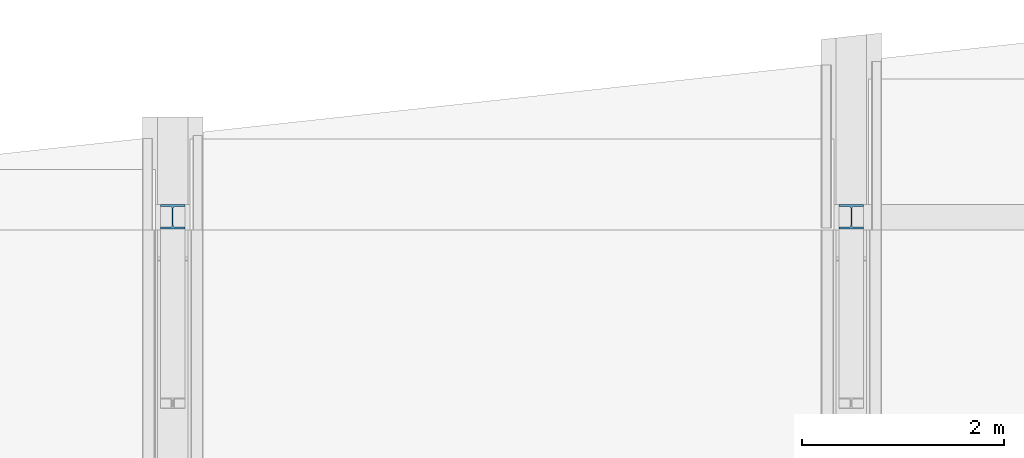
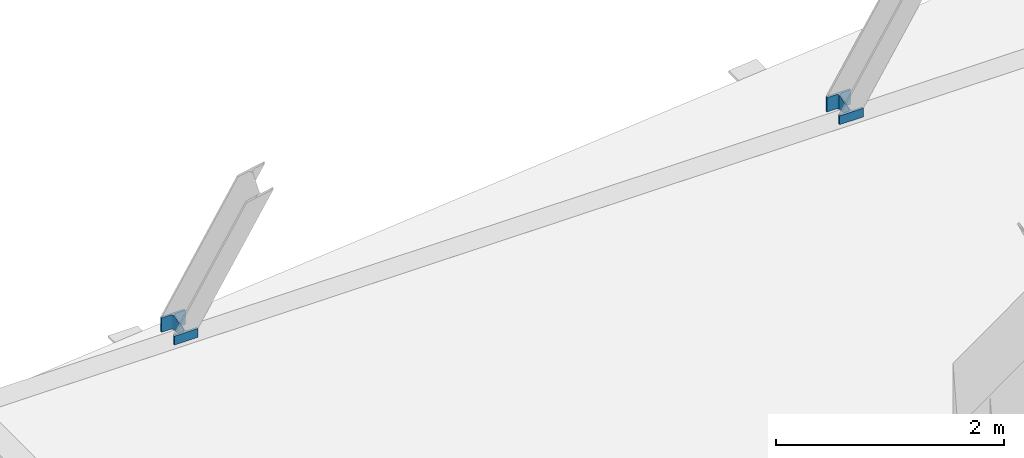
# One storey, part 9 of 38: 2 columns.
"""IFC2X3 building model written with IfcOpenShell, lengths in millimetres."""

from ifc_helpers import new_model, entity, si_unit, converted_unit, derived_unit, direction, frame, frame_2d, origin, place, context, subcontext, project, spatial, polyline, circle_curve, parameter, trimmed, segment, composite_curve, outline, extrude, clip, halfspace, source, transform, mapped, material, type_object, type_shapes, element, save


model = new_model("IFC2X3")

# Units and contexts
model_context = context("Model", 3, precision=0.01, world=origin(), true_north=direction((6.12303176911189e-17, 1.0)))
body_context = subcontext(model_context, "Body", "Model", "MODEL_VIEW")
ifc_project = project(units=[si_unit("LENGTHUNIT", "METRE", prefix="MILLI"), si_unit("AREAUNIT", "SQUARE_METRE", prefix="MILLI"), si_unit("VOLUMEUNIT", "CUBIC_METRE"), converted_unit("PLANEANGLEUNIT", "DEGREE", entity("IfcRatioMeasure", 0.0174532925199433), si_unit("PLANEANGLEUNIT", "RADIAN"), dimensions=[0, 0, 0, 0, 0, 0, 0]), si_unit("MASSUNIT", "GRAM", prefix="KILO"), derived_unit("MASSDENSITYUNIT", [(si_unit("MASSUNIT", "GRAM", prefix="KILO"), 1), (si_unit("LENGTHUNIT", "METRE"), -3)]), derived_unit("MOMENTOFINERTIAUNIT", [(si_unit("LENGTHUNIT", "METRE"), 4)]), si_unit("TIMEUNIT", "SECOND"), si_unit("FREQUENCYUNIT", "HERTZ"), si_unit("THERMODYNAMICTEMPERATUREUNIT", "DEGREE_CELSIUS"), derived_unit("THERMALTRANSMITTANCEUNIT", [(si_unit("MASSUNIT", "GRAM", prefix="KILO"), 1), (si_unit("THERMODYNAMICTEMPERATUREUNIT", "KELVIN"), -1), (si_unit("TIMEUNIT", "SECOND"), -3)]), derived_unit("VOLUMETRICFLOWRATEUNIT", [(si_unit("LENGTHUNIT", "METRE"), 3), (si_unit("TIMEUNIT", "SECOND"), -1)]), si_unit("ELECTRICCURRENTUNIT", "AMPERE"), si_unit("ELECTRICVOLTAGEUNIT", "VOLT"), si_unit("POWERUNIT", "WATT"), si_unit("FORCEUNIT", "NEWTON", prefix="KILO"), si_unit("ILLUMINANCEUNIT", "LUX"), si_unit("LUMINOUSFLUXUNIT", "LUMEN"), si_unit("LUMINOUSINTENSITYUNIT", "CANDELA"), derived_unit("USERDEFINED", [(si_unit("MASSUNIT", "GRAM", prefix="KILO"), -1), (si_unit("LENGTHUNIT", "METRE"), -2), (si_unit("TIMEUNIT", "SECOND"), 3), (si_unit("LUMINOUSFLUXUNIT", "LUMEN"), 1)]), derived_unit("LINEARVELOCITYUNIT", [(si_unit("LENGTHUNIT", "METRE"), 1), (si_unit("TIMEUNIT", "SECOND"), -1)]), si_unit("PRESSUREUNIT", "PASCAL"), derived_unit("USERDEFINED", [(si_unit("LENGTHUNIT", "METRE"), -2), (si_unit("MASSUNIT", "GRAM", prefix="KILO"), 1), (si_unit("TIMEUNIT", "SECOND"), -2)]), derived_unit("LINEARFORCEUNIT", [(si_unit("MASSUNIT", "GRAM", prefix="KILO"), 1), (si_unit("LENGTHUNIT", "METRE"), 1), (si_unit("TIMEUNIT", "SECOND"), -2), (si_unit("LENGTHUNIT", "METRE"), -1)]), derived_unit("PLANARFORCEUNIT", [(si_unit("MASSUNIT", "GRAM", prefix="KILO"), 1), (si_unit("LENGTHUNIT", "METRE"), 1), (si_unit("TIMEUNIT", "SECOND"), -2), (si_unit("LENGTHUNIT", "METRE"), -2)])], contexts=[model_context])

# Site, building, storey
site_placement = place(None, origin())
site = spatial("IfcSite", under=ifc_project, at=site_placement, Name="Theater aan de Parade", CompositionType="ELEMENT")
building_placement = place(site_placement, origin())
building = spatial("IfcBuilding", under=site, at=building_placement, Name="Theater aan de Parade", CompositionType="ELEMENT")
storey_placement = place(building_placement, frame((0.0, 0.0, 12480.0)))
storey = spatial("IfcBuildingStorey", under=building, at=storey_placement, Name="03 derde verdieping", CompositionType="ELEMENT", Elevation=12480.0)

# Columns
ifc_material = material(Name="00_PBT_MAT_staal_S355")
column_type_1 = type_object("IfcColumnType", Name="28_PBT_SC_staal_H-profiel:S355_HE240B", PredefinedType="COLUMN", material=ifc_material)
shared_shape_1 = source(origin(), body_context, "Body", "Clipping", [
    clip(extrude(outline(composite_curve([segment(polyline([(103.0, -120.0), (120.0, -120.0)]), True, "CONTINUOUS"), segment(polyline([(120.0, -120.0), (120.0, 120.0)]), True, "CONTINUOUS"), segment(polyline([(120.0, 120.0), (103.0, 120.0)]), True, "CONTINUOUS"), segment(polyline([(103.0, 120.0), (103.0, 26.0)]), True, "CONTINUOUS"), segment(trimmed(circle_curve(frame_2d((82.0, 26.0), x_axis=(1.0, 0.0)), 21.000000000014), [parameter(270.000000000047)], [parameter(0.0)], True, "PARAMETER"), False, "CONTINUOUS"), segment(polyline([(82.0, 5.0), (-82.0, 5.0)]), True, "CONTINUOUS"), segment(trimmed(circle_curve(frame_2d((-82.0, 26.0), x_axis=(0.0, -1.0)), 21.000000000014), [parameter(270.000000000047)], [parameter(0.0)], True, "PARAMETER"), False, "CONTINUOUS"), segment(polyline([(-103.0, 26.0), (-103.0, 120.0)]), True, "CONTINUOUS"), segment(polyline([(-103.0, 120.0), (-120.0, 120.0)]), True, "CONTINUOUS"), segment(polyline([(-120.0, 120.0), (-120.0, -120.0)]), True, "CONTINUOUS"), segment(polyline([(-120.0, -120.0), (-103.0, -120.0)]), True, "CONTINUOUS"), segment(polyline([(-103.0, -120.0), (-103.0, -26.0)]), True, "CONTINUOUS"), segment(trimmed(circle_curve(frame_2d((-82.0, -26.0), x_axis=(-1.0, 0.0)), 21.000000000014), [parameter(270.000000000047)], [parameter(0.0)], True, "PARAMETER"), False, "CONTINUOUS"), segment(polyline([(-82.0, -5.0), (82.0, -5.0)]), True, "CONTINUOUS"), segment(trimmed(circle_curve(frame_2d((82.0, -26.0), x_axis=(0.0, 1.0)), 21.000000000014), [parameter(270.000000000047)], [parameter(0.0)], True, "PARAMETER"), False, "CONTINUOUS"), segment(polyline([(103.0, -26.0), (103.0, -120.0)]), True, "CONTINUOUS")], self_intersect=False)), frame((46197.668810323, 49391.9979908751, 12635.0), z_axis=(0.0, 0.0, 1.0), x_axis=(0.0, -1.0, 0.0)), (0.0, 0.0, 1.0), 158.245876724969), halfspace(frame((46608.5163175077, 49514.4108596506, 12793.8924029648), z_axis=(0.0, -0.258819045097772, 0.965925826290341), x_axis=(0.0, 0.965925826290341, 0.258819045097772)), False)),
])
type_shapes(column_type_1, [shared_shape_1])
column_1_placement = place(storey_placement, frame((0.0, 0.0, -12480.0)))
element("IfcColumn", 1, at=column_1_placement, inside=storey, type_object=column_type_1, material=ifc_material, Name="28_PBT_SC_staal_H-profiel:S355_HE240B", ObjectType="28_PBT_SC_staal_H-profiel:S355_HE240B", context=body_context, shape_type="MappedRepresentation", body=[
    mapped(shared_shape_1, transform((0.0, 0.0, 0.0), scale=1.0)),
])
column_type_2 = type_object("IfcColumnType", Name="28_PBT_SC_staal_H-profiel:S355_HE240B", PredefinedType="COLUMN", material=ifc_material)
shared_shape_2 = source(origin(), body_context, "Body", "Clipping", [
    clip(extrude(outline(composite_curve([segment(polyline([(103.0, -120.0), (120.0, -120.0)]), True, "CONTINUOUS"), segment(polyline([(120.0, -120.0), (120.0, 120.0)]), True, "CONTINUOUS"), segment(polyline([(120.0, 120.0), (103.0, 120.0)]), True, "CONTINUOUS"), segment(polyline([(103.0, 120.0), (103.0, 26.0)]), True, "CONTINUOUS"), segment(trimmed(circle_curve(frame_2d((82.0, 26.0), x_axis=(1.0, 0.0)), 21.0000000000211), [parameter(270.000000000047)], [parameter(0.0)], True, "PARAMETER"), False, "CONTINUOUS"), segment(polyline([(82.0, 5.0), (-82.0, 5.0)]), True, "CONTINUOUS"), segment(trimmed(circle_curve(frame_2d((-82.0, 26.0), x_axis=(0.0, -1.0)), 21.000000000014), [parameter(270.000000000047)], [parameter(0.0)], True, "PARAMETER"), False, "CONTINUOUS"), segment(polyline([(-103.0, 26.0), (-103.0, 120.0)]), True, "CONTINUOUS"), segment(polyline([(-103.0, 120.0), (-120.0, 120.0)]), True, "CONTINUOUS"), segment(polyline([(-120.0, 120.0), (-120.0, -120.0)]), True, "CONTINUOUS"), segment(polyline([(-120.0, -120.0), (-103.0, -120.0)]), True, "CONTINUOUS"), segment(polyline([(-103.0, -120.0), (-103.0, -26.0)]), True, "CONTINUOUS"), segment(trimmed(circle_curve(frame_2d((-82.0, -26.0), x_axis=(-1.0, 0.0)), 21.000000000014), [parameter(270.000000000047)], [parameter(0.0)], True, "PARAMETER"), False, "CONTINUOUS"), segment(polyline([(-82.0, -5.0), (82.0, -5.0)]), True, "CONTINUOUS"), segment(trimmed(circle_curve(frame_2d((82.0, -26.0), x_axis=(0.0, 1.0)), 21.0000000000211), [parameter(270.000000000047)], [parameter(0.0)], True, "PARAMETER"), False, "CONTINUOUS"), segment(polyline([(103.0, -26.0), (103.0, -120.0)]), True, "CONTINUOUS")], self_intersect=False)), frame((39462.1672575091, 49391.9979908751, 12635.0), z_axis=(0.0, 0.0, 1.0), x_axis=(0.0, -1.0, 0.0)), (0.0, 0.0, 1.0), 158.245876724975), halfspace(frame((46608.5163175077, 49514.4108596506, 12793.8924029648), z_axis=(0.0, -0.258819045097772, 0.965925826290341), x_axis=(0.0, 0.965925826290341, 0.258819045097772)), False)),
])
type_shapes(column_type_2, [shared_shape_2])
column_2_placement = place(storey_placement, frame((0.0, 0.0, -12480.0)))
element("IfcColumn", 2, at=column_2_placement, inside=storey, type_object=column_type_2, material=ifc_material, Name="28_PBT_SC_staal_H-profiel:S355_HE240B", ObjectType="28_PBT_SC_staal_H-profiel:S355_HE240B", context=body_context, shape_type="MappedRepresentation", body=[
    mapped(shared_shape_2, transform((0.0, 0.0, 0.0), scale=1.0)),
])

save(model, "model.ifc")
